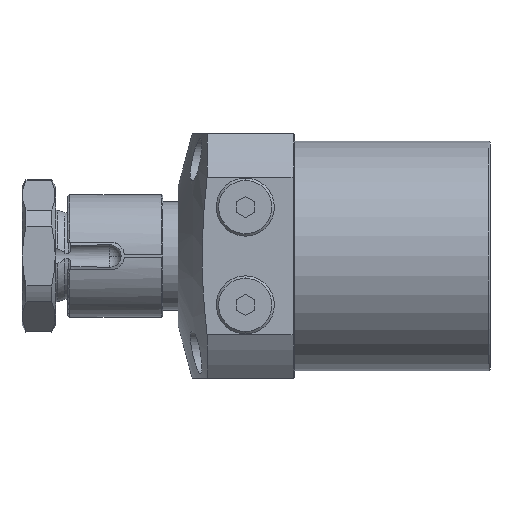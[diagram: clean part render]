
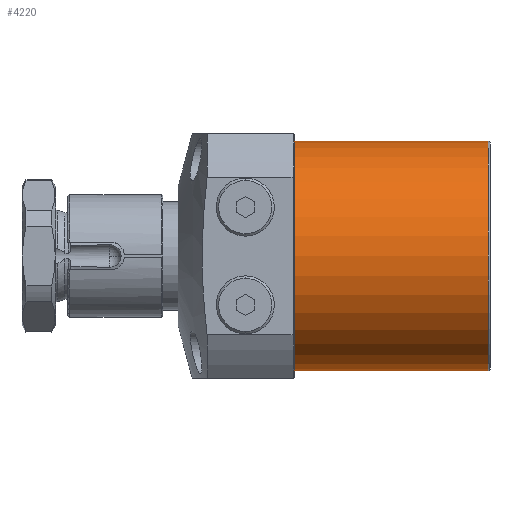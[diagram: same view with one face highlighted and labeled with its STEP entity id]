
A CAD part, left-side view. The second image highlights one B-rep face of the part: STEP entity #4220.
In plain terms, the highlighted cylindrical face has radius 37.5 mm (diameter 75 mm), a partial arc.
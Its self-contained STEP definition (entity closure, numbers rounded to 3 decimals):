
#134 = CARTESIAN_POINT ( 'NONE',  ( 71., 0., 37.5 ) ) ;
#225 = DIRECTION ( 'NONE',  ( 0., 0., -1. ) ) ;
#258 = EDGE_CURVE ( 'NONE', #4157, #2120, #6991, .T. ) ;
#393 = CIRCLE ( 'NONE', #1215, 37.5 ) ;
#453 = EDGE_CURVE ( 'NONE', #2120, #3886, #6069, .T. ) ;
#485 = EDGE_CURVE ( 'NONE', #4157, #6754, #5876, .T. ) ;
#1178 = CARTESIAN_POINT ( 'NONE',  ( 63.5, 0., 37.5 ) ) ;
#1215 = AXIS2_PLACEMENT_3D ( 'NONE', #2158, #6314, #2753 ) ;
#1293 = EDGE_CURVE ( 'NONE', #3886, #6754, #393, .T. ) ;
#1322 = VECTOR ( 'NONE', #5512, 1000. ) ;
#1367 = DIRECTION ( 'NONE',  ( -1., 0., 0. ) ) ;
#1741 = CARTESIAN_POINT ( 'NONE',  ( 0., 0., 37.5 ) ) ;
#1961 = CARTESIAN_POINT ( 'NONE',  ( 71., 0., -37.5 ) ) ;
#2120 = VERTEX_POINT ( 'NONE', #1178 ) ;
#2158 = CARTESIAN_POINT ( 'NONE',  ( 0., 0., 0. ) ) ;
#2410 = ORIENTED_EDGE ( 'NONE', *, *, #485, .F. ) ;
#2753 = DIRECTION ( 'NONE',  ( 0., 0., -1. ) ) ;
#3194 = DIRECTION ( 'NONE',  ( 0., 0., 1. ) ) ;
#3778 = DIRECTION ( 'NONE',  ( -1., 0., 0. ) ) ;
#3886 = VERTEX_POINT ( 'NONE', #1741 ) ;
#4096 = EDGE_LOOP ( 'NONE', ( #2410, #7356, #7594, #7321 ) ) ;
#4157 = VERTEX_POINT ( 'NONE', #5501 ) ;
#4220 = ADVANCED_FACE ( 'NONE', ( #6643 ), #6448, .T. ) ;
#4488 = VECTOR ( 'NONE', #6081, 1000. ) ;
#5405 = AXIS2_PLACEMENT_3D ( 'NONE', #7323, #1367, #3194 ) ;
#5501 = CARTESIAN_POINT ( 'NONE',  ( 63.5, 0., -37.5 ) ) ;
#5512 = DIRECTION ( 'NONE',  ( -1., 0., 0. ) ) ;
#5776 = CARTESIAN_POINT ( 'NONE',  ( 0., 0., -37.5 ) ) ;
#5876 = LINE ( 'NONE', #1961, #1322 ) ;
#6069 = LINE ( 'NONE', #134, #4488 ) ;
#6081 = DIRECTION ( 'NONE',  ( -1., 0., 0. ) ) ;
#6314 = DIRECTION ( 'NONE',  ( 1., 0., 0. ) ) ;
#6448 = CYLINDRICAL_SURFACE ( 'NONE', #5405, 37.5 ) ;
#6643 = FACE_OUTER_BOUND ( 'NONE', #4096, .T. ) ;
#6754 = VERTEX_POINT ( 'NONE', #5776 ) ;
#6991 = CIRCLE ( 'NONE', #7695, 37.5 ) ;
#7321 = ORIENTED_EDGE ( 'NONE', *, *, #1293, .T. ) ;
#7323 = CARTESIAN_POINT ( 'NONE',  ( 71., 0., 0. ) ) ;
#7346 = CARTESIAN_POINT ( 'NONE',  ( 63.5, 0., 0. ) ) ;
#7356 = ORIENTED_EDGE ( 'NONE', *, *, #258, .T. ) ;
#7594 = ORIENTED_EDGE ( 'NONE', *, *, #453, .T. ) ;
#7695 = AXIS2_PLACEMENT_3D ( 'NONE', #7346, #3778, #225 ) ;
